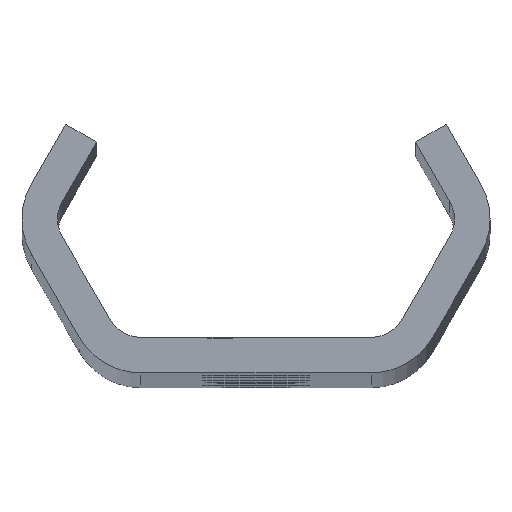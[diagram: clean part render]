
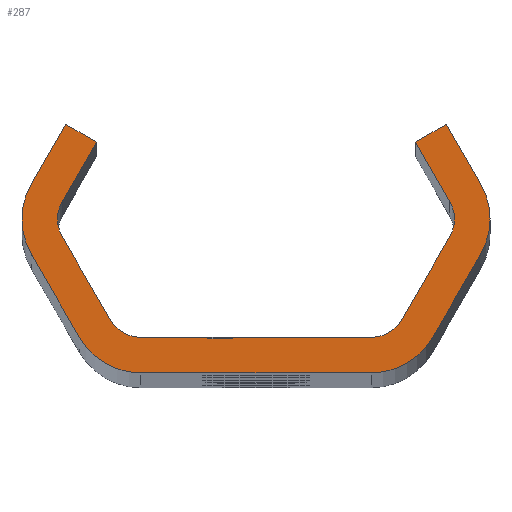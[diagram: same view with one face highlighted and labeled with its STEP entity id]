
A CAD part, top view. The second image highlights one B-rep face of the part: STEP entity #287.
In plain terms, the highlighted planar face has unit normal (0, 0, 1).
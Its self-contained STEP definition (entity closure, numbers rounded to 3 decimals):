
#287=ADVANCED_FACE('NONE',(#757),#758,.F.);
#757=FACE_OUTER_BOUND('',#2246,.T.);
#758=PLANE('',#2247);
#2246=EDGE_LOOP('',(#4604,#4605,#4606,#4607,#4608,#4609,#4610,#4611,#4612,#4613,#4614,#4615,#4616,#4617,#4618,#4619,#4620,#4621,#4622,#4623,#4624,#4625,#4626,#4627,#4628,#4629,#4630,#4631));
#2247=AXIS2_PLACEMENT_3D('',#4632,#4633,#4634);
#4604=ORIENTED_EDGE('',*,*,#6182,.F.);
#4605=ORIENTED_EDGE('',*,*,#6183,.T.);
#4606=ORIENTED_EDGE('',*,*,#6038,.T.);
#4607=ORIENTED_EDGE('',*,*,#6184,.T.);
#4608=ORIENTED_EDGE('',*,*,#6149,.T.);
#4609=ORIENTED_EDGE('',*,*,#6185,.T.);
#4610=ORIENTED_EDGE('',*,*,#5905,.T.);
#4611=ORIENTED_EDGE('',*,*,#6152,.T.);
#4612=ORIENTED_EDGE('',*,*,#6158,.T.);
#4613=ORIENTED_EDGE('',*,*,#6162,.T.);
#4614=ORIENTED_EDGE('',*,*,#6186,.T.);
#4615=ORIENTED_EDGE('',*,*,#6012,.T.);
#4616=ORIENTED_EDGE('',*,*,#6164,.T.);
#4617=ORIENTED_EDGE('',*,*,#6187,.T.);
#4618=ORIENTED_EDGE('',*,*,#6168,.T.);
#4619=ORIENTED_EDGE('',*,*,#6188,.T.);
#4620=ORIENTED_EDGE('',*,*,#6019,.T.);
#4621=ORIENTED_EDGE('',*,*,#6189,.T.);
#4622=ORIENTED_EDGE('',*,*,#5910,.T.);
#4623=ORIENTED_EDGE('',*,*,#6022,.T.);
#4624=ORIENTED_EDGE('',*,*,#6028,.T.);
#4625=ORIENTED_EDGE('',*,*,#6031,.T.);
#4626=ORIENTED_EDGE('',*,*,#6009,.T.);
#4627=ORIENTED_EDGE('',*,*,#6190,.T.);
#4628=ORIENTED_EDGE('',*,*,#6033,.T.);
#4629=ORIENTED_EDGE('',*,*,#6191,.T.);
#4630=ORIENTED_EDGE('',*,*,#6041,.T.);
#4631=ORIENTED_EDGE('',*,*,#6192,.T.);
#4632=CARTESIAN_POINT('',(0.0,0.0,720.0));
#4633=DIRECTION('',(0.0,0.0,-1.0));
#4634=DIRECTION('',(0.0,-1.0,0.0));
#5905=EDGE_CURVE('NONE',#6597,#6601,#6603,.T.);
#5910=EDGE_CURVE('NONE',#6606,#6610,#6612,.T.);
#6009=EDGE_CURVE('NONE',#6790,#6788,#6791,.T.);
#6012=EDGE_CURVE('NONE',#6794,#6795,#6796,.T.);
#6019=EDGE_CURVE('NONE',#6808,#6806,#6809,.T.);
#6022=EDGE_CURVE('NONE',#6610,#6812,#6813,.T.);
#6028=EDGE_CURVE('NONE',#6812,#6820,#6822,.T.);
#6031=EDGE_CURVE('NONE',#6820,#6790,#6825,.T.);
#6033=EDGE_CURVE('NONE',#6827,#6828,#6829,.T.);
#6038=EDGE_CURVE('NONE',#6836,#6837,#6838,.T.);
#6041=EDGE_CURVE('NONE',#6843,#6841,#6844,.T.);
#6149=EDGE_CURVE('NONE',#7044,#7042,#7045,.T.);
#6152=EDGE_CURVE('NONE',#6601,#7048,#7049,.T.);
#6158=EDGE_CURVE('NONE',#7048,#7056,#7058,.T.);
#6162=EDGE_CURVE('NONE',#7056,#7062,#7064,.T.);
#6164=EDGE_CURVE('NONE',#6795,#7066,#7067,.T.);
#6168=EDGE_CURVE('NONE',#7072,#7073,#7074,.T.);
#6182=EDGE_CURVE('NONE',#7090,#7091,#7092,.T.);
#6183=EDGE_CURVE('NONE',#7090,#6836,#7093,.T.);
#6184=EDGE_CURVE('NONE',#6837,#7044,#7094,.T.);
#6185=EDGE_CURVE('NONE',#7042,#6597,#7095,.T.);
#6186=EDGE_CURVE('NONE',#7062,#6794,#7096,.T.);
#6187=EDGE_CURVE('NONE',#7066,#7072,#7097,.T.);
#6188=EDGE_CURVE('NONE',#7073,#6808,#7098,.T.);
#6189=EDGE_CURVE('NONE',#6806,#6606,#7099,.T.);
#6190=EDGE_CURVE('NONE',#6788,#6827,#7100,.T.);
#6191=EDGE_CURVE('NONE',#6828,#6843,#7101,.T.);
#6192=EDGE_CURVE('NONE',#6841,#7091,#7102,.T.);
#6597=VERTEX_POINT('',#7625);
#6601=VERTEX_POINT('NONE',#7630);
#6603=CIRCLE('',#7633,3.0);
#6606=VERTEX_POINT('',#7636);
#6610=VERTEX_POINT('NONE',#7641);
#6612=CIRCLE('',#7644,6.0);
#6788=VERTEX_POINT('NONE',#8712);
#6790=VERTEX_POINT('NONE',#8715);
#6791=CIRCLE('',#8716,3.0);
#6794=VERTEX_POINT('NONE',#8720);
#6795=VERTEX_POINT('NONE',#8721);
#6796=CIRCLE('',#8722,6.0);
#6806=VERTEX_POINT('NONE',#8735);
#6808=VERTEX_POINT('NONE',#8738);
#6809=LINE('',#8739,#8740);
#6812=VERTEX_POINT('NONE',#8744);
#6813=LINE('',#8745,#8746);
#6820=VERTEX_POINT('NONE',#8756);
#6822=LINE('',#8759,#8760);
#6825=LINE('',#8764,#8765);
#6827=VERTEX_POINT('NONE',#8767);
#6828=VERTEX_POINT('NONE',#8768);
#6829=LINE('',#8769,#8770);
#6836=VERTEX_POINT('NONE',#8780);
#6837=VERTEX_POINT('NONE',#8781);
#6838=LINE('',#8782,#8783);
#6841=VERTEX_POINT('NONE',#8787);
#6843=VERTEX_POINT('NONE',#8790);
#6844=LINE('',#8791,#8792);
#7042=VERTEX_POINT('NONE',#9542);
#7044=VERTEX_POINT('NONE',#9545);
#7045=LINE('',#9546,#9547);
#7048=VERTEX_POINT('NONE',#9551);
#7049=LINE('',#9552,#9553);
#7056=VERTEX_POINT('NONE',#9563);
#7058=LINE('',#9566,#9567);
#7062=VERTEX_POINT('NONE',#9572);
#7064=LINE('',#9575,#9576);
#7066=VERTEX_POINT('NONE',#9578);
#7067=LINE('',#9579,#9580);
#7072=VERTEX_POINT('NONE',#9587);
#7073=VERTEX_POINT('NONE',#9588);
#7074=LINE('',#9589,#9590);
#7090=VERTEX_POINT('NONE',#9609);
#7091=VERTEX_POINT('NONE',#9610);
#7092=LINE('',#9611,#9612);
#7093=LINE('',#9613,#9614);
#7094=CIRCLE('',#9615,3.0);
#7095=CIRCLE('',#9616,3.0);
#7096=CIRCLE('',#9617,6.0);
#7097=CIRCLE('',#9618,6.0);
#7098=CIRCLE('',#9619,6.0);
#7099=CIRCLE('',#9620,6.0);
#7100=CIRCLE('',#9621,3.0);
#7101=CIRCLE('',#9622,3.0);
#7102=LINE('',#9623,#9624);
#7625=CARTESIAN_POINT('',(-16.764,0.,720.0));
#7630=CARTESIAN_POINT('',(-16.362,1.5,720.0));
#7633=AXIS2_PLACEMENT_3D('',#11365,#11366,#11367);
#7636=CARTESIAN_POINT('',(19.764,0.,720.0));
#7641=CARTESIAN_POINT('',(18.96,3.,720.0));
#7644=AXIS2_PLACEMENT_3D('',#11373,#11374,#11375);
#8712=CARTESIAN_POINT('',(16.764,0.,720.0));
#8715=CARTESIAN_POINT('',(16.362,1.5,720.0));
#8716=AXIS2_PLACEMENT_3D('',#11472,#11473,#11474);
#8720=CARTESIAN_POINT('',(-19.764,0.,720.0));
#8721=CARTESIAN_POINT('',(-18.96,-3.,720.0));
#8722=AXIS2_PLACEMENT_3D('',#11476,#11477,#11478);
#8735=CARTESIAN_POINT('',(18.96,-3.,720.0));
#8738=CARTESIAN_POINT('',(14.919,-10.,720.0));
#8739=CARTESIAN_POINT('',(20.692,0.,720.0));
#8740=VECTOR('',#11486,1000.0);
#8744=CARTESIAN_POINT('',(16.074,8.,720.0));
#8745=CARTESIAN_POINT('',(16.074,8.,720.0));
#8746=VECTOR('',#11488,1000.0);
#8756=CARTESIAN_POINT('',(13.475,6.5,720.0));
#8759=CARTESIAN_POINT('',(13.475,6.5,720.0));
#8760=VECTOR('',#11493,1000.0);
#8764=CARTESIAN_POINT('',(17.228,0.,720.0));
#8765=VECTOR('',#11495,1000.0);
#8767=CARTESIAN_POINT('',(16.362,-1.5,720.0));
#8768=CARTESIAN_POINT('',(12.321,-8.5,720.0));
#8769=CARTESIAN_POINT('',(11.455,-10.0,720.0));
#8770=VECTOR('',#11496,1000.0);
#8780=CARTESIAN_POINT('',(-4.063,-10.0,720.0));
#8781=CARTESIAN_POINT('',(-9.723,-10.0,720.0));
#8782=CARTESIAN_POINT('',(-11.455,-10.0,720.0));
#8783=VECTOR('',#11500,1000.0);
#8787=CARTESIAN_POINT('',(-3.458,-10.0,720.0));
#8790=CARTESIAN_POINT('',(9.723,-10.0,720.0));
#8791=CARTESIAN_POINT('',(-11.455,-10.0,720.0));
#8792=VECTOR('',#11503,1000.0);
#9542=CARTESIAN_POINT('',(-16.362,-1.5,720.0));
#9545=CARTESIAN_POINT('',(-12.321,-8.5,720.0));
#9546=CARTESIAN_POINT('',(-17.228,0.,720.0));
#9547=VECTOR('',#11617,1000.0);
#9551=CARTESIAN_POINT('',(-13.475,6.5,720.0));
#9552=CARTESIAN_POINT('',(-13.475,6.5,720.0));
#9553=VECTOR('',#11619,1000.0);
#9563=CARTESIAN_POINT('',(-16.074,8.,720.0));
#9566=CARTESIAN_POINT('',(-13.475,6.5,720.0));
#9567=VECTOR('',#11624,1000.0);
#9572=CARTESIAN_POINT('',(-18.96,3.,720.0));
#9575=CARTESIAN_POINT('',(-16.074,8.,720.0));
#9576=VECTOR('',#11627,1000.0);
#9578=CARTESIAN_POINT('',(-14.919,-10.,720.0));
#9579=CARTESIAN_POINT('',(-20.692,0.,720.0));
#9580=VECTOR('',#11628,1000.0);
#9587=CARTESIAN_POINT('',(-9.723,-13.0,720.0));
#9588=CARTESIAN_POINT('',(9.723,-13.0,720.0));
#9589=CARTESIAN_POINT('',(-13.187,-13.0,720.0));
#9590=VECTOR('',#11631,1000.0);
#9609=CARTESIAN_POINT('',(-4.063,-10.1,720.0));
#9610=CARTESIAN_POINT('',(-3.458,-10.1,720.0));
#9611=CARTESIAN_POINT('',(0.0,-10.1,720.0));
#9612=VECTOR('',#11662,1000.0);
#9613=CARTESIAN_POINT('',(-4.063,0.,720.0));
#9614=VECTOR('',#11663,1000.0);
#9615=AXIS2_PLACEMENT_3D('',#11664,#11665,#11666);
#9616=AXIS2_PLACEMENT_3D('',#11667,#11668,#11669);
#9617=AXIS2_PLACEMENT_3D('',#11670,#11671,#11672);
#9618=AXIS2_PLACEMENT_3D('',#11673,#11674,#11675);
#9619=AXIS2_PLACEMENT_3D('',#11676,#11677,#11678);
#9620=AXIS2_PLACEMENT_3D('',#11679,#11680,#11681);
#9621=AXIS2_PLACEMENT_3D('',#11682,#11683,#11684);
#9622=AXIS2_PLACEMENT_3D('',#11685,#11686,#11687);
#9623=CARTESIAN_POINT('',(-3.458,0.,720.0));
#9624=VECTOR('',#11688,1000.0);
#11365=CARTESIAN_POINT('',(-13.764,0.,720.0));
#11366=DIRECTION('',(0.0,0.0,-1.0));
#11367=DIRECTION('',(-1.0,0.0,0.0));
#11373=CARTESIAN_POINT('',(13.764,0.,720.0));
#11374=DIRECTION('',(0.0,0.0,1.0));
#11375=DIRECTION('',(-1.0,0.0,0.0));
#11472=CARTESIAN_POINT('',(13.764,0.,720.0));
#11473=DIRECTION('',(0.0,0.0,-1.0));
#11474=DIRECTION('',(-1.0,0.0,0.0));
#11476=CARTESIAN_POINT('',(-13.764,0.,720.0));
#11477=DIRECTION('',(0.0,0.0,1.0));
#11478=DIRECTION('',(-1.0,0.0,0.0));
#11486=DIRECTION('',(0.5,0.866,-0.0));
#11488=DIRECTION('',(-0.5,0.866,-0.0));
#11493=DIRECTION('',(-0.866,-0.5,-0.0));
#11495=DIRECTION('',(0.5,-0.866,-0.0));
#11496=DIRECTION('',(-0.5,-0.866,-0.0));
#11500=DIRECTION('',(-1.0,0.,-0.0));
#11503=DIRECTION('',(-1.0,0.,-0.0));
#11617=DIRECTION('',(-0.5,0.866,-0.0));
#11619=DIRECTION('',(0.5,0.866,-0.0));
#11624=DIRECTION('',(-0.866,0.5,0.0));
#11627=DIRECTION('',(-0.5,-0.866,0.0));
#11628=DIRECTION('',(0.5,-0.866,0.0));
#11631=DIRECTION('',(1.0,0.0,0.0));
#11662=DIRECTION('',(1.0,0.0,0.0));
#11663=DIRECTION('',(0.,1.0,0.0));
#11664=CARTESIAN_POINT('',(-9.723,-7.0,720.0));
#11665=DIRECTION('',(0.0,0.0,-1.0));
#11666=DIRECTION('',(-1.0,0.0,0.0));
#11667=CARTESIAN_POINT('',(-13.764,0.,720.0));
#11668=DIRECTION('',(0.0,0.0,-1.0));
#11669=DIRECTION('',(-1.0,0.0,0.0));
#11670=CARTESIAN_POINT('',(-13.764,0.,720.0));
#11671=DIRECTION('',(0.0,0.0,1.0));
#11672=DIRECTION('',(-1.0,0.0,0.0));
#11673=CARTESIAN_POINT('',(-9.723,-7.0,720.0));
#11674=DIRECTION('',(0.0,0.0,1.0));
#11675=DIRECTION('',(-1.0,0.0,0.0));
#11676=CARTESIAN_POINT('',(9.723,-7.0,720.0));
#11677=DIRECTION('',(0.0,0.0,1.0));
#11678=DIRECTION('',(-1.0,0.,0.0));
#11679=CARTESIAN_POINT('',(13.764,0.,720.0));
#11680=DIRECTION('',(0.0,0.0,1.0));
#11681=DIRECTION('',(-1.0,0.0,0.0));
#11682=CARTESIAN_POINT('',(13.764,0.,720.0));
#11683=DIRECTION('',(0.0,0.0,-1.0));
#11684=DIRECTION('',(-1.0,0.0,0.0));
#11685=CARTESIAN_POINT('',(9.723,-7.0,720.0));
#11686=DIRECTION('',(0.0,0.0,-1.0));
#11687=DIRECTION('',(-1.0,0.0,0.0));
#11688=DIRECTION('',(0.,-1.0,0.0));
